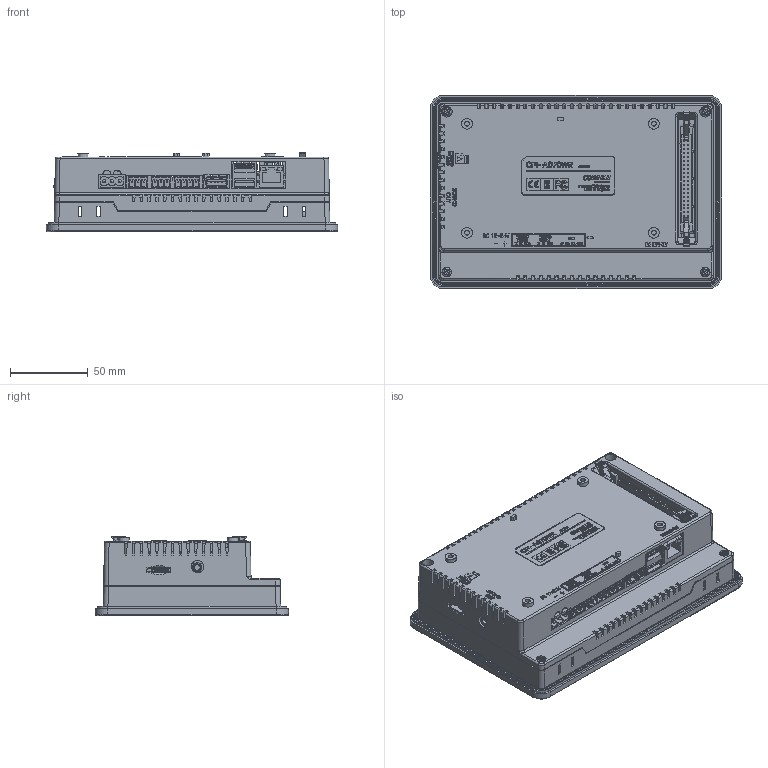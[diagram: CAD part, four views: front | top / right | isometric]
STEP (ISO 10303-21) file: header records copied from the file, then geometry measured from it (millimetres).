
FILE_DESCRIPTION (( 'STEP AP214' ), '1' );
FILE_NAME ('CPi_A070WR_rev3_蝶變だ橾辨_last.STEP', '2018-12-13T09:13:52', ( 'luke' ), ( '' ), 'SwSTEP 2.0', 'SolidWorks 2016', '' );
FILE_SCHEMA (( 'AUTOMOTIVE_DESIGN' ));
Length unit declared in the file: millimetre
Products named in the file (3): CPi_A070WR_rev3_蝶變だ橾辨_last; RPI_070W_皋牢焊靛_rev3_USB1窜栏肺官厕_胶跑颇老侩; 餌獄 だお8^CPi_A070WR_rev3_蝶變だ橾辨_last
Assembly tree (2 placements, depth 2):
  CPi_A070WR_rev3_蝶變だ橾辨_last
    餌獄 だお8^CPi_A070WR_rev3_蝶變だ橾辨_last
    RPI_070W_皋牢焊靛_rev3_USB1窜栏肺官厕_胶跑颇老侩
Bounding box: 187 x 124 x 51.07 mm (x, y, z)
Volume: 147189.7 mm3; surface area: 179651.8 mm2
Topology: 1 solids, 57 shells, 5335 faces, 15467 edges, 10246 vertices
Faces by surface type: plane 3968, bspline 902, cylinder 360, cone 67, torus 34, sphere 4
Full cylindrical faces by diameter (mm): 0.6 x7, 0.672 x1, 0.868 x1, 1.922 x1, 2 x3, 2.4 x4, 2.6 x7, 3 x4, 3.6 x1, 4 x4, 5 x5, 5.4 x4, 6 x3, 8 x1
Entity records: 224788 total; most frequent: CARTESIAN_POINT 76449, ORIENTED_EDGE 29198, DIRECTION 22389, EDGE_CURVE 15319, VECTOR 12261, LINE 12261, VERTEX_POINT 10204, EDGE_LOOP 5852
